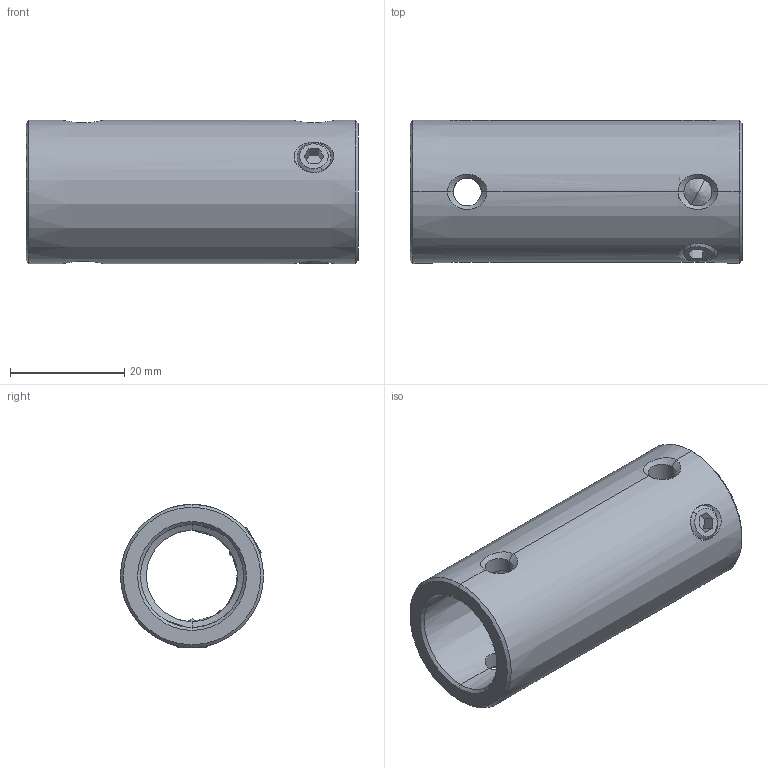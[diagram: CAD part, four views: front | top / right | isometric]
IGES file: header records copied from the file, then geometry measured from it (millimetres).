
Start section: START RECORD GO HERE.
Global section: file name: ZU40_STRAIGHT_JOINT.igs; native system: DASSAULT SYSTEMES CATIA Version 5-6 Release 2023 - www.3ds.com; preprocessor: V5-6R2023_5.33.5.3.12-06-2024.11.00; author: ARJ; organization: ARJ.co.ltd; date: 20260306.181229; units: millimetre
Bounding box: 58 x 25 x 25 mm (x, y, z)
Volume: 14937.3 mm3; surface area: 8502.2 mm2
Topology: 3 solids, 3 shells, 66 faces, 158 edges, 88 vertices
Faces by surface type: revolution 48, plane 18
